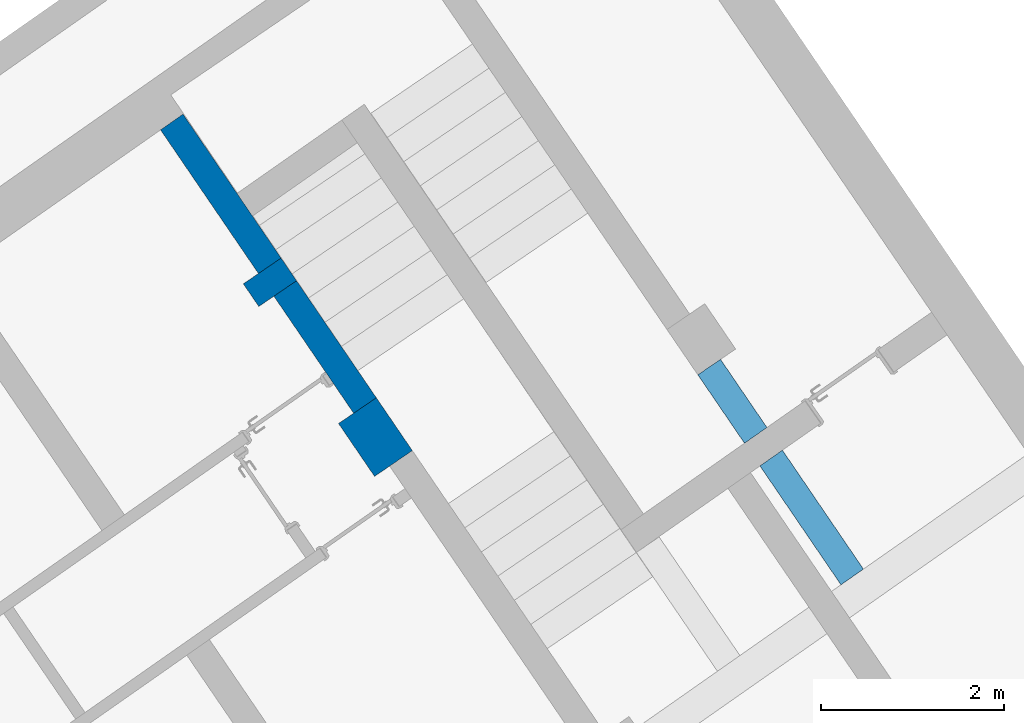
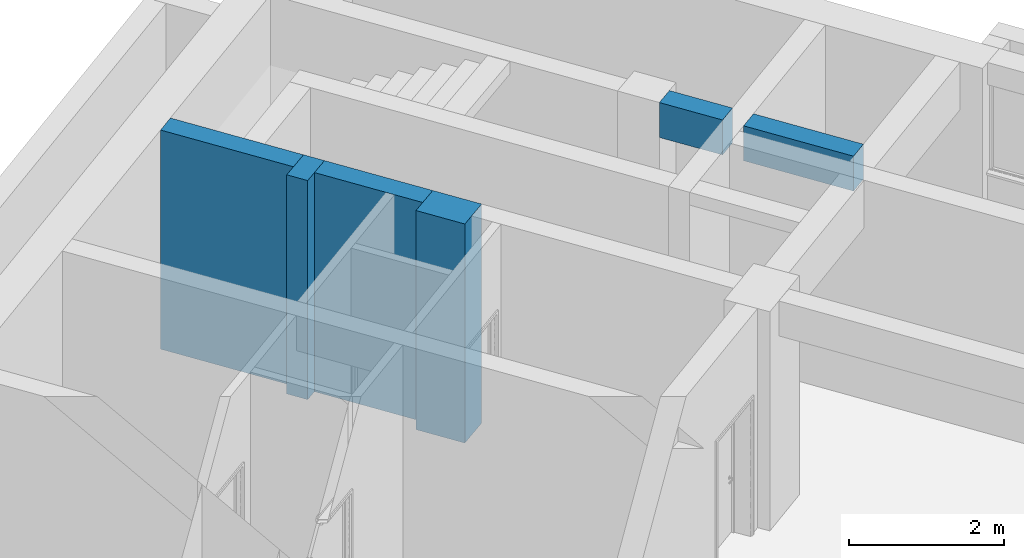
# One storey, part 70 of 112: 5 walls, 1 opening.
"""IFC2X3 building model written with IfcOpenShell, lengths in millimetres."""

from ifc_helpers import new_model, entity, si_unit, converted_unit, derived_unit, direction, frame, frame_2d, origin, place, context, subcontext, project, spatial, polyline, rectangle, outline, extrude, material, layer, layer_set, layer_usage, type_object, element, save


model = new_model("IFC2X3")

# Units and contexts
model_context = context("Model", 3, precision=0.01, world=origin(), true_north=direction((6.123031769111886e-17, 1.0)))
body_context = subcontext(model_context, "Body", "Model", "MODEL_VIEW")
ifc_project = project(units=[si_unit("LENGTHUNIT", "METRE", prefix="MILLI"), si_unit("AREAUNIT", "SQUARE_METRE"), si_unit("VOLUMEUNIT", "CUBIC_METRE"), converted_unit("PLANEANGLEUNIT", "DEGREE", entity("IfcRatioMeasure", 0.017453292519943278), si_unit("PLANEANGLEUNIT", "RADIAN"), dimensions=[0, 0, 0, 0, 0, 0, 0]), si_unit("MASSUNIT", "GRAM", prefix="KILO"), derived_unit("MASSDENSITYUNIT", [(si_unit("MASSUNIT", "GRAM", prefix="KILO"), 1), (si_unit("LENGTHUNIT", "METRE"), -3)]), derived_unit("MOMENTOFINERTIAUNIT", [(si_unit("LENGTHUNIT", "METRE"), 4)]), si_unit("TIMEUNIT", "SECOND"), si_unit("FREQUENCYUNIT", "HERTZ"), si_unit("THERMODYNAMICTEMPERATUREUNIT", "DEGREE_CELSIUS"), derived_unit("THERMALTRANSMITTANCEUNIT", [(si_unit("MASSUNIT", "GRAM", prefix="KILO"), 1), (si_unit("THERMODYNAMICTEMPERATUREUNIT", "KELVIN"), -1), (si_unit("TIMEUNIT", "SECOND"), -3)]), derived_unit("THERMALCONDUCTANCEUNIT", [(si_unit("MASSUNIT", "GRAM", prefix="KILO"), 1), (si_unit("LENGTHUNIT", "METRE"), 1), (si_unit("THERMODYNAMICTEMPERATUREUNIT", "KELVIN"), -1), (si_unit("TIMEUNIT", "SECOND"), -3)]), derived_unit("VOLUMETRICFLOWRATEUNIT", [(si_unit("LENGTHUNIT", "METRE"), 3), (si_unit("TIMEUNIT", "SECOND"), -1)]), derived_unit("MASSFLOWRATEUNIT", [(si_unit("MASSUNIT", "GRAM", prefix="KILO"), 1), (si_unit("TIMEUNIT", "SECOND"), -1)]), derived_unit("ROTATIONALFREQUENCYUNIT", [(si_unit("TIMEUNIT", "SECOND"), -1)]), si_unit("ELECTRICCURRENTUNIT", "AMPERE"), si_unit("ELECTRICVOLTAGEUNIT", "VOLT"), si_unit("POWERUNIT", "WATT"), converted_unit("FORCEUNIT", "KIP", entity("IfcRatioMeasure", 2.088543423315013e-05), si_unit("FORCEUNIT", "NEWTON"), dimensions=[1, 1, -2, 0, 0, 0, 0]), si_unit("ILLUMINANCEUNIT", "LUX"), si_unit("LUMINOUSFLUXUNIT", "LUMEN"), si_unit("LUMINOUSINTENSITYUNIT", "CANDELA"), derived_unit("USERDEFINED", [(si_unit("MASSUNIT", "GRAM", prefix="KILO"), -1), (si_unit("LENGTHUNIT", "METRE"), -2), (si_unit("TIMEUNIT", "SECOND"), 3), (si_unit("LUMINOUSFLUXUNIT", "LUMEN"), 1)]), derived_unit("USERDEFINED", [(si_unit("MASSUNIT", "GRAM", prefix="KILO"), 1), (si_unit("LENGTHUNIT", "METRE"), 3), (si_unit("TIMEUNIT", "SECOND"), -3), (si_unit("ELECTRICCURRENTUNIT", "AMPERE"), -2)]), derived_unit("USERDEFINED", [(si_unit("LENGTHUNIT", "METRE"), 2), (si_unit("TIMEUNIT", "SECOND"), -2)]), derived_unit("SOUNDPOWERUNIT", [(si_unit("MASSUNIT", "GRAM", prefix="KILO"), 1), (si_unit("LENGTHUNIT", "METRE"), 2), (si_unit("TIMEUNIT", "SECOND"), -3)]), derived_unit("SOUNDPRESSUREUNIT", [(si_unit("MASSUNIT", "GRAM", prefix="KILO"), 1), (si_unit("LENGTHUNIT", "METRE"), -1), (si_unit("TIMEUNIT", "SECOND"), -2)]), derived_unit("LINEARVELOCITYUNIT", [(si_unit("LENGTHUNIT", "METRE"), 1), (si_unit("TIMEUNIT", "SECOND"), -1)]), si_unit("PRESSUREUNIT", "PASCAL"), derived_unit("USERDEFINED", [(si_unit("LENGTHUNIT", "METRE"), -2), (si_unit("MASSUNIT", "GRAM", prefix="KILO"), 1), (si_unit("TIMEUNIT", "SECOND"), -2)]), derived_unit("LINEARFORCEUNIT", [(si_unit("MASSUNIT", "GRAM", prefix="KILO"), 1), (si_unit("LENGTHUNIT", "METRE"), 1), (si_unit("TIMEUNIT", "SECOND"), -2), (si_unit("LENGTHUNIT", "METRE"), -1)]), derived_unit("PLANARFORCEUNIT", [(si_unit("MASSUNIT", "GRAM", prefix="KILO"), 1), (si_unit("LENGTHUNIT", "METRE"), 1), (si_unit("TIMEUNIT", "SECOND"), -2), (si_unit("LENGTHUNIT", "METRE"), -2)]), derived_unit("SPECIFICHEATCAPACITYUNIT", [(si_unit("LENGTHUNIT", "METRE"), 2), (si_unit("TIMEUNIT", "SECOND"), -2), (si_unit("THERMODYNAMICTEMPERATUREUNIT", "KELVIN"), -1)]), derived_unit("VAPORPERMEABILITYUNIT", [(si_unit("TIMEUNIT", "SECOND"), 1), (si_unit("LENGTHUNIT", "METRE"), -1)]), derived_unit("DYNAMICVISCOSITYUNIT", [(si_unit("MASSUNIT", "GRAM", prefix="KILO"), 1), (si_unit("LENGTHUNIT", "METRE"), -1), (si_unit("TIMEUNIT", "SECOND"), -1)]), derived_unit("THERMALEXPANSIONCOEFFICIENTUNIT", [(si_unit("THERMODYNAMICTEMPERATUREUNIT", "KELVIN"), -1)])], contexts=[model_context])

# Site, building, storey
site_placement = place(None, frame((0.0, 0.0, 0.0), z_axis=(0.0, 0.0, 1.0), x_axis=(0.8191520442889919, 0.5735764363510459, 0.0)))
site = spatial("IfcSite", under=ifc_project, at=site_placement, Name="Default", CompositionType="ELEMENT")
building_placement = place(site_placement, origin())
building = spatial("IfcBuilding", under=site, at=building_placement, CompositionType="ELEMENT")
storey_placement = place(building_placement, frame((0.0, 0.0, -3600.0)))
storey = spatial("IfcBuildingStorey", under=building, at=storey_placement, Name="0.UG -3.60", CompositionType="ELEMENT", Elevation=-3600.0000000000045)

# Wall, opening
ifc_material = material(Name="Analytical Wall Surface_CJC")
ifc_layer_1 = layer(ifc_material, 300.0)
ifc_layer_set_1 = layer_set([ifc_layer_1], Name="Basic Wall:Wand_Innen_30")
ifc_layer_usage_1 = layer_usage(ifc_layer_set_1, "AXIS2", "NEGATIVE", 150.0)
wall_type_1 = type_object("IfcWallType", Name="Basic Wall:Wand_Innen_30", PredefinedType="STANDARD", material=ifc_layer_set_1)
wall_1_placement = place(storey_placement, frame((-206979.93973588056, 164169.44947620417, 2900.0), z_axis=(0.0, 0.0, 1.0), x_axis=(0.012729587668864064, 0.999918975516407, 0.0)))
wall_1 = element("IfcWallStandardCase", 1, at=wall_1_placement, inside=storey, type_object=wall_type_1, material=ifc_layer_usage_1, Name="Basic Wall:Wand_Innen_30", ObjectType="Basic Wall:Wand_Innen_30", context=body_context, shape_type="SweptSolid", body=[
    extrude(outline(polyline([(3.819185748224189, -150.0), (2781.590170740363, -150.0), (2781.590170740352, 150.0), (0.0, 150.0), (3.819185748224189, -150.0)])), origin(), (0.0, 0.0, 1.0), 550.0),
])
opening_placement = place(storey_placement, frame((-206979.93973588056, 164169.44947620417, 2900.0), z_axis=(0.0, 0.0, 1.0), x_axis=(0.012729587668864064, 0.999918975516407, 0.0)))
element("IfcOpeningElement", 2, at=opening_placement, cuts=wall_1, Name="Basic Wall:Wand_Innen_30:1", ObjectType="Opening", context=body_context, shape_type="SweptSolid", body=[
    extrude(rectangle(XDim=550.0, YDim=300.02490297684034, at=frame_2d((0.0, 1.7323031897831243e-11), x_axis=(1.0, 0.0))), frame((1576.674101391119, 0.0, 275.0), z_axis=(0.9999169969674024, 0.012884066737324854, 0.0), x_axis=(0.0, 0.0, -1.0)), (0.0, -0.01288406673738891, 0.9999169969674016), 300.02550022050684),
])

# Walls
wall_2_placement = place(storey_placement, frame((-210248.131107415, 170616.90355866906, 0.0), z_axis=(0.0, 0.0, 1.0), x_axis=(0.012729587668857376, 0.999918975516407, 0.0)))
element("IfcWallStandardCase", 3, at=wall_2_placement, inside=storey, type_object=wall_type_1, material=ifc_layer_usage_1, Name="Basic Wall:Wand_Innen_30", ObjectType="Basic Wall:Wand_Innen_30", context=body_context, shape_type="SweptSolid", body=[
    extrude(outline(polyline([(1906.5192685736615, -150.0), (1902.7000828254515, 150.0), (0.0, 150.0), (0.0, -150.0), (556.4098766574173, -150.0), (856.4341859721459, -150.0), (1906.5192685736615, -150.0)])), origin(), (0.0, 0.0, 1.0), 3450.0),
])
wall_3_placement = place(storey_placement, frame((-210271.6827528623, 168766.90355866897, 0.0), z_axis=(0.0, 0.0, 1.0), x_axis=(0.012729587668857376, 0.999918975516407, 0.0)))
element("IfcWallStandardCase", 4, at=wall_3_placement, inside=storey, type_object=wall_type_1, material=ifc_layer_usage_1, Name="Basic Wall:Wand_Innen_30", ObjectType="Basic Wall:Wand_Innen_30", context=body_context, shape_type="SweptSolid", body=[
    extrude(rectangle(XDim=1550.1255981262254, YDim=300.0000000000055, at=frame_2d((775.0627990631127, -7.645439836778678e-12), x_axis=(-1.0, 0.0))), origin(), (0.0, 0.0, 1.0), 3450.0),
])
ifc_layer_2 = layer(ifc_material, 500.00000000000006)
ifc_layer_set_2 = layer_set([ifc_layer_2], Name="Basic Wall:Wand_Innen_50")
ifc_layer_usage_2 = layer_usage(ifc_layer_set_2, "AXIS2", "NEGATIVE", 250.00000000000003)
wall_type_2 = type_object("IfcWallType", Name="Basic Wall:Wand_Innen_50", PredefinedType="STANDARD", material=ifc_layer_set_2)
wall_4_placement = place(storey_placement, frame((-210351.94219071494, 170318.17651743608, 0.0), z_axis=(0.0, 0.0, 1.0), x_axis=(0.012729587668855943, 0.9999189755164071, 0.0)))
element("IfcWallStandardCase", 5, at=wall_4_placement, inside=storey, type_object=wall_type_2, material=ifc_layer_usage_2, Name="Basic Wall:Wand_Innen_50", ObjectType="Basic Wall:Wand_Innen_50", context=body_context, shape_type="SweptSolid", body=[
    extrude(rectangle(XDim=300.0243093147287, YDim=500.0000000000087, at=frame_2d((150.01215465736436, 3.979039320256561e-13), x_axis=(-1.0, 0.0))), origin(), (0.0, 0.0, 1.0), 3450.0),
])
wall_5_placement = place(storey_placement, frame((-210380.5860838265, 168068.1765174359, 0.0), z_axis=(0.0, 0.0, 1.0), x_axis=(0.012729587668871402, 0.9999189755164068, 0.0)))
element("IfcWallStandardCase", 6, at=wall_5_placement, inside=storey, type_object=wall_type_2, material=ifc_layer_usage_2, Name="Basic Wall:Wand_Innen_50", ObjectType="Basic Wall:Wand_Innen_50", context=body_context, shape_type="SweptSolid", body=[
    extrude(rectangle(XDim=700.056721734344, YDim=500.0000000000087, at=frame_2d((350.028360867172, 3.836930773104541e-13), x_axis=(-1.0, 0.0))), origin(), (0.0, 0.0, 1.0), 3450.0),
])

save(model, "model.ifc")
